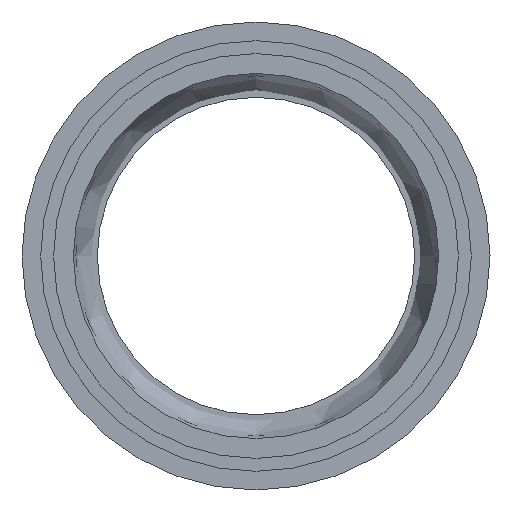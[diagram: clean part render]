
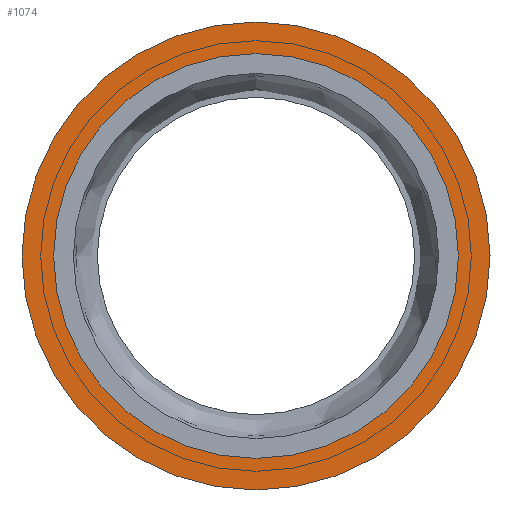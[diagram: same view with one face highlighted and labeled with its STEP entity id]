
A CAD part, left-side view. The second image highlights one B-rep face of the part: STEP entity #1074.
In plain terms, the highlighted planar face has unit normal (-1, 0, 0).
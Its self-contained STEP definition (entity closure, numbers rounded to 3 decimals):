
#135=PLANE('',#1196);
#195=FACE_BOUND('',#377,.T.);
#196=FACE_BOUND('',#378,.T.);
#377=EDGE_LOOP('',(#909));
#378=EDGE_LOOP('',(#910));
#433=CIRCLE('',#1195,32.55);
#434=CIRCLE('',#1197,28.15);
#541=VERTEX_POINT('',#4028);
#542=VERTEX_POINT('',#4031);
#665=EDGE_CURVE('',#541,#541,#433,.T.);
#666=EDGE_CURVE('',#542,#542,#434,.T.);
#909=ORIENTED_EDGE('',*,*,#666,.F.);
#910=ORIENTED_EDGE('',*,*,#665,.T.);
#1074=ADVANCED_FACE('',(#195,#196),#135,.T.);
#1195=AXIS2_PLACEMENT_3D('',#4029,#1425,#1426);
#1196=AXIS2_PLACEMENT_3D('',#4030,#1427,#1428);
#1197=AXIS2_PLACEMENT_3D('',#4032,#1429,#1430);
#1425=DIRECTION('center_axis',(-1.,0.,0.));
#1426=DIRECTION('ref_axis',(0.,0.,
-1.));
#1427=DIRECTION('center_axis',(-1.,0.,0.));
#1428=DIRECTION('ref_axis',(0.,0.,-1.));
#1429=DIRECTION('center_axis',(-1.,0.,0.));
#1430=DIRECTION('ref_axis',(0.,0.,
-1.));
#4028=CARTESIAN_POINT('',(-545.9,-32.55,0.));
#4029=CARTESIAN_POINT('Origin',(-545.9,0.,0.));
#4030=CARTESIAN_POINT('Origin',(-545.9,-28.15,0.));
#4031=CARTESIAN_POINT('',(-545.9,-28.15,0.));
#4032=CARTESIAN_POINT('Origin',(-545.9,0.,0.));
